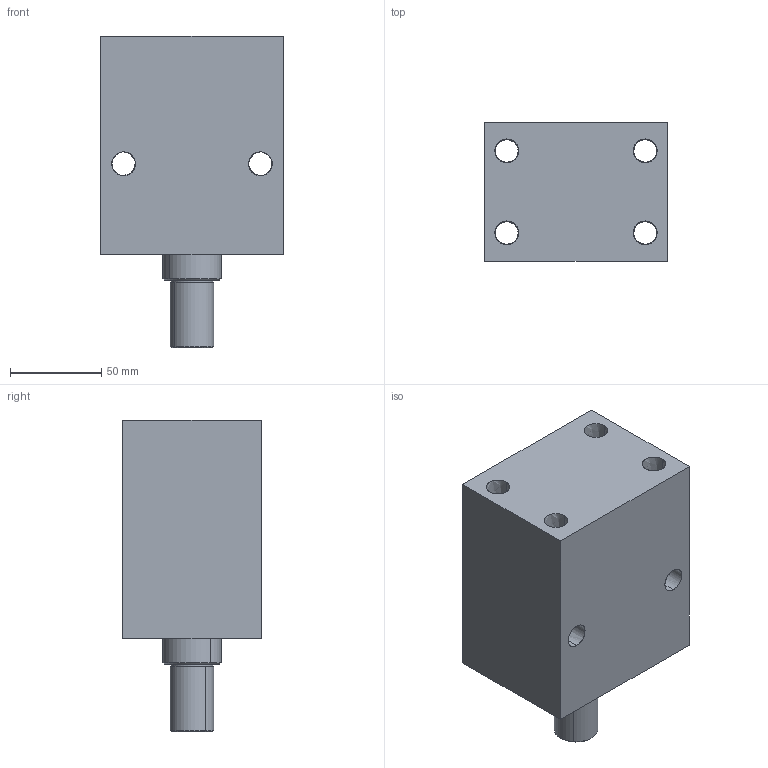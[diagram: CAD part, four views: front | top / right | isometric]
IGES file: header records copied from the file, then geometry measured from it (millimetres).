
Start section: SolidWorks IGES file using analytic representation for surfaces
Global section: file name: D:\karuppas\Clasp\3D model\Block cylinder B01C-Male thread - Copy\B01C-450M\Block cylinder B01C-450M.IGS; native system: SolidWorks 2017; preprocessor: SolidWorks 2017; author: pc; date: 220709.234256; units: millimetre
Bounding box: 100 x 76 x 171 mm (x, y, z)
Surface area: 95779.4 mm2 (no closed solid volume)
Topology: 0 solids, 0 shells, 340 faces, 5388 edges, 5384 vertices
Faces by surface type: bspline 298, revolution 42
